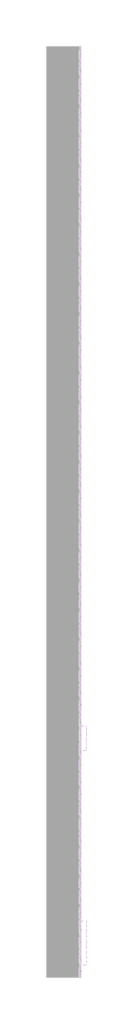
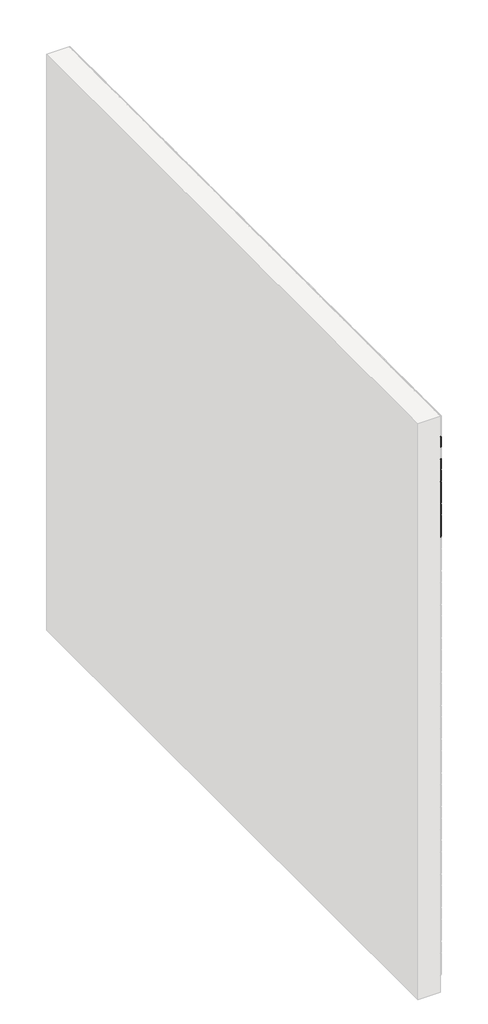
# One storey, part 103 of 121: 144 proxies.
"""IFC4 building model written with IfcOpenShell, lengths in millimetres."""

from ifc_helpers import new_model, si_unit, origin, place, context, project, spatial, transform, mapped, element, save
from components import generic_models_b2b2c5c1, generic_models_9bf73f6f, generic_models_5d175859, generic_models_45888c4d

model = new_model("IFC4")

# Units and contexts
model_context = context("Model", 3, world=origin())
ifc_project = project(units=[si_unit("LENGTHUNIT", "METRE", prefix="MILLI")], contexts=[model_context])

# Site, building, storey
site = spatial("IfcSite", under=ifc_project)
building = spatial("IfcBuilding", under=site)
storey = spatial("IfcBuildingStorey", under=building, Name="PORTOBELLO - SHOWROOM", Elevation=0.0)

# Proxies
placement = place(None, origin())
generic_models_shape = generic_models_b2b2c5c1(model_context)
element("IfcBuildingElementProxy", 1, Name="PBSHOP - CUBICA WHITE 4,8X8,3 : CUBICA WHITE - POSIÇÃO 01", ObjectType="PBSHOP - CUBICA WHITE 4,8X8,3 : CUBICA WHITE - POSIÇÃO 01", at=placement, inside=storey, context=model_context, shape_type="MappedRepresentation", body=[
    mapped(generic_models_shape, transform((150369.5341846, 19332.8066494, 2170.6574029), x_axis=(0.0, 1.0, 0.0), y_axis=(0.0, 0.0, 1.0), z_axis=(1.0, 0.0, 0.0))),
])
element("IfcBuildingElementProxy", 2, Name="PBSHOP - CUBICA WHITE 4,8X8,3 : CUBICA WHITE - POSIÇÃO 01", ObjectType="PBSHOP - CUBICA WHITE 4,8X8,3 : CUBICA WHITE - POSIÇÃO 01", at=placement, inside=storey, context=model_context, shape_type="MappedRepresentation", body=[
    mapped(generic_models_shape, transform((150369.5341846, 19423.6459187, 2170.6574029), x_axis=(0.0, 1.0, 0.0), y_axis=(0.0, 0.0, 1.0), z_axis=(1.0, 0.0, 0.0))),
])
element("IfcBuildingElementProxy", 3, Name="PBSHOP - CUBICA WHITE 4,8X8,3 : CUBICA WHITE - POSIÇÃO 01", ObjectType="PBSHOP - CUBICA WHITE 4,8X8,3 : CUBICA WHITE - POSIÇÃO 01", at=placement, inside=storey, context=model_context, shape_type="MappedRepresentation", body=[
    mapped(generic_models_shape, transform((150369.5341846, 19514.4851879, 2170.6574029), x_axis=(0.0, 1.0, 0.0), y_axis=(0.0, 0.0, 1.0), z_axis=(1.0, 0.0, 0.0))),
])
element("IfcBuildingElementProxy", 4, Name="PBSHOP - CUBICA WHITE 4,8X8,3 : CUBICA WHITE - POSIÇÃO 01", ObjectType="PBSHOP - CUBICA WHITE 4,8X8,3 : CUBICA WHITE - POSIÇÃO 01", at=placement, inside=storey, context=model_context, shape_type="MappedRepresentation", body=[
    mapped(generic_models_shape, transform((150369.5341846, 19605.3244572, 2170.6574029), x_axis=(0.0, 1.0, 0.0), y_axis=(0.0, 0.0, 1.0), z_axis=(1.0, 0.0, 0.0))),
])
element("IfcBuildingElementProxy", 5, Name="PBSHOP - CUBICA WHITE 4,8X8,3 : CUBICA WHITE - POSIÇÃO 01", ObjectType="PBSHOP - CUBICA WHITE 4,8X8,3 : CUBICA WHITE - POSIÇÃO 01", at=placement, inside=storey, context=model_context, shape_type="MappedRepresentation", body=[
    mapped(generic_models_shape, transform((150369.5341846, 19696.1637264, 2170.6574029), x_axis=(0.0, 1.0, 0.0), y_axis=(0.0, 0.0, 1.0), z_axis=(1.0, 0.0, 0.0))),
])
element("IfcBuildingElementProxy", 6, Name="PBSHOP - CUBICA WHITE 4,8X8,3 : CUBICA WHITE - POSIÇÃO 01", ObjectType="PBSHOP - CUBICA WHITE 4,8X8,3 : CUBICA WHITE - POSIÇÃO 01", at=placement, inside=storey, context=model_context, shape_type="MappedRepresentation", body=[
    mapped(generic_models_shape, transform((150369.5341846, 19787.0029957, 2170.6574029), x_axis=(0.0, 1.0, 0.0), y_axis=(0.0, 0.0, 1.0), z_axis=(1.0, 0.0, 0.0))),
])
element("IfcBuildingElementProxy", 7, Name="PBSHOP - CUBICA WHITE 4,8X8,3 : CUBICA WHITE - POSIÇÃO 01", ObjectType="PBSHOP - CUBICA WHITE 4,8X8,3 : CUBICA WHITE - POSIÇÃO 01", at=placement, inside=storey, context=model_context, shape_type="MappedRepresentation", body=[
    mapped(generic_models_shape, transform((150369.5341846, 19877.8422649, 2170.6574029), x_axis=(0.0, 1.0, 0.0), y_axis=(0.0, 0.0, 1.0), z_axis=(1.0, 0.0, 0.0))),
])
element("IfcBuildingElementProxy", 8, Name="PBSHOP - CUBICA WHITE 4,8X8,3 : CUBICA WHITE - POSIÇÃO 01", ObjectType="PBSHOP - CUBICA WHITE 4,8X8,3 : CUBICA WHITE - POSIÇÃO 01", at=placement, inside=storey, context=model_context, shape_type="MappedRepresentation", body=[
    mapped(generic_models_shape, transform((150369.5341846, 19968.6815341, 2170.6574029), x_axis=(0.0, 1.0, 0.0), y_axis=(0.0, 0.0, 1.0), z_axis=(1.0, 0.0, 0.0))),
])
element("IfcBuildingElementProxy", 9, Name="PBSHOP - CUBICA WHITE 4,8X8,3 : CUBICA WHITE - POSIÇÃO 01", ObjectType="PBSHOP - CUBICA WHITE 4,8X8,3 : CUBICA WHITE - POSIÇÃO 01", at=placement, inside=storey, context=model_context, shape_type="MappedRepresentation", body=[
    mapped(generic_models_shape, transform((150369.5341846, 19196.5477456, 2249.5920413), x_axis=(0.0, 1.0, 0.0), y_axis=(0.0, 0.0, 1.0), z_axis=(1.0, 0.0, 0.0))),
])
element("IfcBuildingElementProxy", 10, Name="PBSHOP - CUBICA WHITE 4,8X8,3 : CUBICA WHITE - POSIÇÃO 01", ObjectType="PBSHOP - CUBICA WHITE 4,8X8,3 : CUBICA WHITE - POSIÇÃO 01", at=placement, inside=storey, context=model_context, shape_type="MappedRepresentation", body=[
    mapped(generic_models_shape, transform((150369.5341846, 19287.3870148, 2249.5920413), x_axis=(0.0, 1.0, 0.0), y_axis=(0.0, 0.0, 1.0), z_axis=(1.0, 0.0, 0.0))),
])
element("IfcBuildingElementProxy", 11, Name="PBSHOP - CUBICA WHITE 4,8X8,3 : CUBICA WHITE - POSIÇÃO 01", ObjectType="PBSHOP - CUBICA WHITE 4,8X8,3 : CUBICA WHITE - POSIÇÃO 01", at=placement, inside=storey, context=model_context, shape_type="MappedRepresentation", body=[
    mapped(generic_models_shape, transform((150369.5341846, 19378.2262841, 2249.5920413), x_axis=(0.0, 1.0, 0.0), y_axis=(0.0, 0.0, 1.0), z_axis=(1.0, 0.0, 0.0))),
])
element("IfcBuildingElementProxy", 12, Name="PBSHOP - CUBICA WHITE 4,8X8,3 : CUBICA WHITE - POSIÇÃO 01", ObjectType="PBSHOP - CUBICA WHITE 4,8X8,3 : CUBICA WHITE - POSIÇÃO 01", at=placement, inside=storey, context=model_context, shape_type="MappedRepresentation", body=[
    mapped(generic_models_shape, transform((150369.5341846, 19469.0655533, 2249.5920413), x_axis=(0.0, 1.0, 0.0), y_axis=(0.0, 0.0, 1.0), z_axis=(1.0, 0.0, 0.0))),
])
element("IfcBuildingElementProxy", 13, Name="PBSHOP - CUBICA WHITE 4,8X8,3 : CUBICA WHITE - POSIÇÃO 01", ObjectType="PBSHOP - CUBICA WHITE 4,8X8,3 : CUBICA WHITE - POSIÇÃO 01", at=placement, inside=storey, context=model_context, shape_type="MappedRepresentation", body=[
    mapped(generic_models_shape, transform((150369.5341846, 19559.9048225, 2249.5920413), x_axis=(0.0, 1.0, 0.0), y_axis=(0.0, 0.0, 1.0), z_axis=(1.0, 0.0, 0.0))),
])
element("IfcBuildingElementProxy", 14, Name="PBSHOP - CUBICA WHITE 4,8X8,3 : CUBICA WHITE - POSIÇÃO 01", ObjectType="PBSHOP - CUBICA WHITE 4,8X8,3 : CUBICA WHITE - POSIÇÃO 01", at=placement, inside=storey, context=model_context, shape_type="MappedRepresentation", body=[
    mapped(generic_models_shape, transform((150369.5341846, 19650.7440918, 2249.5920413), x_axis=(0.0, 1.0, 0.0), y_axis=(0.0, 0.0, 1.0), z_axis=(1.0, 0.0, 0.0))),
])
element("IfcBuildingElementProxy", 15, Name="PBSHOP - CUBICA WHITE 4,8X8,3 : CUBICA WHITE - POSIÇÃO 01", ObjectType="PBSHOP - CUBICA WHITE 4,8X8,3 : CUBICA WHITE - POSIÇÃO 01", at=placement, inside=storey, context=model_context, shape_type="MappedRepresentation", body=[
    mapped(generic_models_shape, transform((150369.5341846, 19741.583361, 2249.5920413), x_axis=(0.0, 1.0, 0.0), y_axis=(0.0, 0.0, 1.0), z_axis=(1.0, 0.0, 0.0))),
])
element("IfcBuildingElementProxy", 16, Name="PBSHOP - CUBICA WHITE 4,8X8,3 : CUBICA WHITE - POSIÇÃO 01", ObjectType="PBSHOP - CUBICA WHITE 4,8X8,3 : CUBICA WHITE - POSIÇÃO 01", at=placement, inside=storey, context=model_context, shape_type="MappedRepresentation", body=[
    mapped(generic_models_shape, transform((150369.5341846, 19832.4226303, 2249.5920413), x_axis=(0.0, 1.0, 0.0), y_axis=(0.0, 0.0, 1.0), z_axis=(1.0, 0.0, 0.0))),
])
element("IfcBuildingElementProxy", 17, Name="PBSHOP - CUBICA WHITE 4,8X8,3 : CUBICA WHITE - POSIÇÃO 01", ObjectType="PBSHOP - CUBICA WHITE 4,8X8,3 : CUBICA WHITE - POSIÇÃO 01", at=placement, inside=storey, context=model_context, shape_type="MappedRepresentation", body=[
    mapped(generic_models_shape, transform((150369.5341846, 19923.2618995, 2249.5920413), x_axis=(0.0, 1.0, 0.0), y_axis=(0.0, 0.0, 1.0), z_axis=(1.0, 0.0, 0.0))),
])
element("IfcBuildingElementProxy", 18, Name="PBSHOP - CUBICA WHITE 4,8X8,3 : CUBICA WHITE - POSIÇÃO 01", ObjectType="PBSHOP - CUBICA WHITE 4,8X8,3 : CUBICA WHITE - POSIÇÃO 01", at=placement, inside=storey, context=model_context, shape_type="MappedRepresentation", body=[
    mapped(generic_models_shape, transform((150369.5341846, 19241.9673802, 2328.5266797), x_axis=(0.0, 1.0, 0.0), y_axis=(0.0, 0.0, 1.0), z_axis=(1.0, 0.0, 0.0))),
])
element("IfcBuildingElementProxy", 19, Name="PBSHOP - CUBICA WHITE 4,8X8,3 : CUBICA WHITE - POSIÇÃO 01", ObjectType="PBSHOP - CUBICA WHITE 4,8X8,3 : CUBICA WHITE - POSIÇÃO 01", at=placement, inside=storey, context=model_context, shape_type="MappedRepresentation", body=[
    mapped(generic_models_shape, transform((150369.5341846, 19332.8066494, 2328.5266797), x_axis=(0.0, 1.0, 0.0), y_axis=(0.0, 0.0, 1.0), z_axis=(1.0, 0.0, 0.0))),
])
element("IfcBuildingElementProxy", 20, Name="PBSHOP - CUBICA WHITE 4,8X8,3 : CUBICA WHITE - POSIÇÃO 01", ObjectType="PBSHOP - CUBICA WHITE 4,8X8,3 : CUBICA WHITE - POSIÇÃO 01", at=placement, inside=storey, context=model_context, shape_type="MappedRepresentation", body=[
    mapped(generic_models_shape, transform((150369.5341846, 19423.6459187, 2328.5266797), x_axis=(0.0, 1.0, 0.0), y_axis=(0.0, 0.0, 1.0), z_axis=(1.0, 0.0, 0.0))),
])
element("IfcBuildingElementProxy", 21, Name="PBSHOP - CUBICA WHITE 4,8X8,3 : CUBICA WHITE - POSIÇÃO 01", ObjectType="PBSHOP - CUBICA WHITE 4,8X8,3 : CUBICA WHITE - POSIÇÃO 01", at=placement, inside=storey, context=model_context, shape_type="MappedRepresentation", body=[
    mapped(generic_models_shape, transform((150369.5341846, 19514.4851879, 2328.5266797), x_axis=(0.0, 1.0, 0.0), y_axis=(0.0, 0.0, 1.0), z_axis=(1.0, 0.0, 0.0))),
])
element("IfcBuildingElementProxy", 22, Name="PBSHOP - CUBICA WHITE 4,8X8,3 : CUBICA WHITE - POSIÇÃO 01", ObjectType="PBSHOP - CUBICA WHITE 4,8X8,3 : CUBICA WHITE - POSIÇÃO 01", at=placement, inside=storey, context=model_context, shape_type="MappedRepresentation", body=[
    mapped(generic_models_shape, transform((150369.5341846, 19605.3244572, 2328.5266797), x_axis=(0.0, 1.0, 0.0), y_axis=(0.0, 0.0, 1.0), z_axis=(1.0, 0.0, 0.0))),
])
element("IfcBuildingElementProxy", 23, Name="PBSHOP - CUBICA WHITE 4,8X8,3 : CUBICA WHITE - POSIÇÃO 01", ObjectType="PBSHOP - CUBICA WHITE 4,8X8,3 : CUBICA WHITE - POSIÇÃO 01", at=placement, inside=storey, context=model_context, shape_type="MappedRepresentation", body=[
    mapped(generic_models_shape, transform((150369.5341846, 19696.1637264, 2328.5266797), x_axis=(0.0, 1.0, 0.0), y_axis=(0.0, 0.0, 1.0), z_axis=(1.0, 0.0, 0.0))),
])
element("IfcBuildingElementProxy", 24, Name="PBSHOP - CUBICA WHITE 4,8X8,3 : CUBICA WHITE - POSIÇÃO 01", ObjectType="PBSHOP - CUBICA WHITE 4,8X8,3 : CUBICA WHITE - POSIÇÃO 01", at=placement, inside=storey, context=model_context, shape_type="MappedRepresentation", body=[
    mapped(generic_models_shape, transform((150369.5341846, 19787.0029957, 2328.5266797), x_axis=(0.0, 1.0, 0.0), y_axis=(0.0, 0.0, 1.0), z_axis=(1.0, 0.0, 0.0))),
])
element("IfcBuildingElementProxy", 25, Name="PBSHOP - CUBICA WHITE 4,8X8,3 : CUBICA WHITE - POSIÇÃO 01", ObjectType="PBSHOP - CUBICA WHITE 4,8X8,3 : CUBICA WHITE - POSIÇÃO 01", at=placement, inside=storey, context=model_context, shape_type="MappedRepresentation", body=[
    mapped(generic_models_shape, transform((150369.5341846, 19877.8422649, 2328.5266797), x_axis=(0.0, 1.0, 0.0), y_axis=(0.0, 0.0, 1.0), z_axis=(1.0, 0.0, 0.0))),
])
element("IfcBuildingElementProxy", 26, Name="PBSHOP - CUBICA WHITE 4,8X8,3 : CUBICA WHITE - POSIÇÃO 01", ObjectType="PBSHOP - CUBICA WHITE 4,8X8,3 : CUBICA WHITE - POSIÇÃO 01", at=placement, inside=storey, context=model_context, shape_type="MappedRepresentation", body=[
    mapped(generic_models_shape, transform((150369.5341846, 19968.6815341, 2328.5266797), x_axis=(0.0, 1.0, 0.0), y_axis=(0.0, 0.0, 1.0), z_axis=(1.0, 0.0, 0.0))),
])
element("IfcBuildingElementProxy", 27, Name="PBSHOP - CUBICA WHITE 4,8X8,3 : CUBICA WHITE - POSIÇÃO 01", ObjectType="PBSHOP - CUBICA WHITE 4,8X8,3 : CUBICA WHITE - POSIÇÃO 01", at=placement, inside=storey, context=model_context, shape_type="MappedRepresentation", body=[
    mapped(generic_models_shape, transform((150369.5341846, 19196.5477456, 2407.461318), x_axis=(0.0, 1.0, 0.0), y_axis=(0.0, 0.0, 1.0), z_axis=(1.0, 0.0, 0.0))),
])
element("IfcBuildingElementProxy", 28, Name="PBSHOP - CUBICA WHITE 4,8X8,3 : CUBICA WHITE - POSIÇÃO 01", ObjectType="PBSHOP - CUBICA WHITE 4,8X8,3 : CUBICA WHITE - POSIÇÃO 01", at=placement, inside=storey, context=model_context, shape_type="MappedRepresentation", body=[
    mapped(generic_models_shape, transform((150369.5341846, 19287.3870148, 2407.461318), x_axis=(0.0, 1.0, 0.0), y_axis=(0.0, 0.0, 1.0), z_axis=(1.0, 0.0, 0.0))),
])
element("IfcBuildingElementProxy", 29, Name="PBSHOP - CUBICA WHITE 4,8X8,3 : CUBICA WHITE - POSIÇÃO 01", ObjectType="PBSHOP - CUBICA WHITE 4,8X8,3 : CUBICA WHITE - POSIÇÃO 01", at=placement, inside=storey, context=model_context, shape_type="MappedRepresentation", body=[
    mapped(generic_models_shape, transform((150369.5341846, 19378.2262841, 2407.461318), x_axis=(0.0, 1.0, 0.0), y_axis=(0.0, 0.0, 1.0), z_axis=(1.0, 0.0, 0.0))),
])
element("IfcBuildingElementProxy", 30, Name="PBSHOP - CUBICA WHITE 4,8X8,3 : CUBICA WHITE - POSIÇÃO 01", ObjectType="PBSHOP - CUBICA WHITE 4,8X8,3 : CUBICA WHITE - POSIÇÃO 01", at=placement, inside=storey, context=model_context, shape_type="MappedRepresentation", body=[
    mapped(generic_models_shape, transform((150369.5341846, 19469.0655533, 2407.461318), x_axis=(0.0, 1.0, 0.0), y_axis=(0.0, 0.0, 1.0), z_axis=(1.0, 0.0, 0.0))),
])
element("IfcBuildingElementProxy", 31, Name="PBSHOP - CUBICA WHITE 4,8X8,3 : CUBICA WHITE - POSIÇÃO 01", ObjectType="PBSHOP - CUBICA WHITE 4,8X8,3 : CUBICA WHITE - POSIÇÃO 01", at=placement, inside=storey, context=model_context, shape_type="MappedRepresentation", body=[
    mapped(generic_models_shape, transform((150369.5341846, 19559.9048225, 2407.461318), x_axis=(0.0, 1.0, 0.0), y_axis=(0.0, 0.0, 1.0), z_axis=(1.0, 0.0, 0.0))),
])
element("IfcBuildingElementProxy", 32, Name="PBSHOP - CUBICA WHITE 4,8X8,3 : CUBICA WHITE - POSIÇÃO 01", ObjectType="PBSHOP - CUBICA WHITE 4,8X8,3 : CUBICA WHITE - POSIÇÃO 01", at=placement, inside=storey, context=model_context, shape_type="MappedRepresentation", body=[
    mapped(generic_models_shape, transform((150369.5341846, 19650.7440918, 2407.461318), x_axis=(0.0, 1.0, 0.0), y_axis=(0.0, 0.0, 1.0), z_axis=(1.0, 0.0, 0.0))),
])
element("IfcBuildingElementProxy", 33, Name="PBSHOP - CUBICA WHITE 4,8X8,3 : CUBICA WHITE - POSIÇÃO 01", ObjectType="PBSHOP - CUBICA WHITE 4,8X8,3 : CUBICA WHITE - POSIÇÃO 01", at=placement, inside=storey, context=model_context, shape_type="MappedRepresentation", body=[
    mapped(generic_models_shape, transform((150369.5341846, 19741.583361, 2407.461318), x_axis=(0.0, 1.0, 0.0), y_axis=(0.0, 0.0, 1.0), z_axis=(1.0, 0.0, 0.0))),
])
element("IfcBuildingElementProxy", 34, Name="PBSHOP - CUBICA WHITE 4,8X8,3 : CUBICA WHITE - POSIÇÃO 01", ObjectType="PBSHOP - CUBICA WHITE 4,8X8,3 : CUBICA WHITE - POSIÇÃO 01", at=placement, inside=storey, context=model_context, shape_type="MappedRepresentation", body=[
    mapped(generic_models_shape, transform((150369.5341846, 19832.4226303, 2407.461318), x_axis=(0.0, 1.0, 0.0), y_axis=(0.0, 0.0, 1.0), z_axis=(1.0, 0.0, 0.0))),
])
element("IfcBuildingElementProxy", 35, Name="PBSHOP - CUBICA WHITE 4,8X8,3 : CUBICA WHITE - POSIÇÃO 01", ObjectType="PBSHOP - CUBICA WHITE 4,8X8,3 : CUBICA WHITE - POSIÇÃO 01", at=placement, inside=storey, context=model_context, shape_type="MappedRepresentation", body=[
    mapped(generic_models_shape, transform((150369.5341846, 19923.2618995, 2407.461318), x_axis=(0.0, 1.0, 0.0), y_axis=(0.0, 0.0, 1.0), z_axis=(1.0, 0.0, 0.0))),
])
element("IfcBuildingElementProxy", 36, Name="PBSHOP - CUBICA WHITE 4,8X8,3 : CUBICA WHITE - POSIÇÃO 01", ObjectType="PBSHOP - CUBICA WHITE 4,8X8,3 : CUBICA WHITE - POSIÇÃO 01", at=placement, inside=storey, context=model_context, shape_type="MappedRepresentation", body=[
    mapped(generic_models_shape, transform((150369.5341846, 19241.9673802, 2486.3959564), x_axis=(0.0, 1.0, 0.0), y_axis=(0.0, 0.0, 1.0), z_axis=(1.0, 0.0, 0.0))),
])
element("IfcBuildingElementProxy", 37, Name="PBSHOP - CUBICA WHITE 4,8X8,3 : CUBICA WHITE - POSIÇÃO 01", ObjectType="PBSHOP - CUBICA WHITE 4,8X8,3 : CUBICA WHITE - POSIÇÃO 01", at=placement, inside=storey, context=model_context, shape_type="MappedRepresentation", body=[
    mapped(generic_models_shape, transform((150369.5341846, 19332.8066494, 2486.3959564), x_axis=(0.0, 1.0, 0.0), y_axis=(0.0, 0.0, 1.0), z_axis=(1.0, 0.0, 0.0))),
])
element("IfcBuildingElementProxy", 38, Name="PBSHOP - CUBICA WHITE 4,8X8,3 : CUBICA WHITE - POSIÇÃO 01", ObjectType="PBSHOP - CUBICA WHITE 4,8X8,3 : CUBICA WHITE - POSIÇÃO 01", at=placement, inside=storey, context=model_context, shape_type="MappedRepresentation", body=[
    mapped(generic_models_shape, transform((150369.5341846, 19423.6459187, 2486.3959564), x_axis=(0.0, 1.0, 0.0), y_axis=(0.0, 0.0, 1.0), z_axis=(1.0, 0.0, 0.0))),
])
element("IfcBuildingElementProxy", 39, Name="PBSHOP - CUBICA WHITE 4,8X8,3 : CUBICA WHITE - POSIÇÃO 01", ObjectType="PBSHOP - CUBICA WHITE 4,8X8,3 : CUBICA WHITE - POSIÇÃO 01", at=placement, inside=storey, context=model_context, shape_type="MappedRepresentation", body=[
    mapped(generic_models_shape, transform((150369.5341846, 19514.4851879, 2486.3959564), x_axis=(0.0, 1.0, 0.0), y_axis=(0.0, 0.0, 1.0), z_axis=(1.0, 0.0, 0.0))),
])
element("IfcBuildingElementProxy", 40, Name="PBSHOP - CUBICA WHITE 4,8X8,3 : CUBICA WHITE - POSIÇÃO 01", ObjectType="PBSHOP - CUBICA WHITE 4,8X8,3 : CUBICA WHITE - POSIÇÃO 01", at=placement, inside=storey, context=model_context, shape_type="MappedRepresentation", body=[
    mapped(generic_models_shape, transform((150369.5341846, 19605.3244572, 2486.3959564), x_axis=(0.0, 1.0, 0.0), y_axis=(0.0, 0.0, 1.0), z_axis=(1.0, 0.0, 0.0))),
])
element("IfcBuildingElementProxy", 41, Name="PBSHOP - CUBICA WHITE 4,8X8,3 : CUBICA WHITE - POSIÇÃO 01", ObjectType="PBSHOP - CUBICA WHITE 4,8X8,3 : CUBICA WHITE - POSIÇÃO 01", at=placement, inside=storey, context=model_context, shape_type="MappedRepresentation", body=[
    mapped(generic_models_shape, transform((150369.5341846, 19696.1637264, 2486.3959564), x_axis=(0.0, 1.0, 0.0), y_axis=(0.0, 0.0, 1.0), z_axis=(1.0, 0.0, 0.0))),
])
element("IfcBuildingElementProxy", 42, Name="PBSHOP - CUBICA WHITE 4,8X8,3 : CUBICA WHITE - POSIÇÃO 01", ObjectType="PBSHOP - CUBICA WHITE 4,8X8,3 : CUBICA WHITE - POSIÇÃO 01", at=placement, inside=storey, context=model_context, shape_type="MappedRepresentation", body=[
    mapped(generic_models_shape, transform((150369.5341846, 19787.0029957, 2486.3959564), x_axis=(0.0, 1.0, 0.0), y_axis=(0.0, 0.0, 1.0), z_axis=(1.0, 0.0, 0.0))),
])
element("IfcBuildingElementProxy", 43, Name="PBSHOP - CUBICA WHITE 4,8X8,3 : CUBICA WHITE - POSIÇÃO 01", ObjectType="PBSHOP - CUBICA WHITE 4,8X8,3 : CUBICA WHITE - POSIÇÃO 01", at=placement, inside=storey, context=model_context, shape_type="MappedRepresentation", body=[
    mapped(generic_models_shape, transform((150369.5341846, 19877.8422649, 2486.3959564), x_axis=(0.0, 1.0, 0.0), y_axis=(0.0, 0.0, 1.0), z_axis=(1.0, 0.0, 0.0))),
])
element("IfcBuildingElementProxy", 44, Name="PBSHOP - CUBICA WHITE 4,8X8,3 : CUBICA WHITE - POSIÇÃO 01", ObjectType="PBSHOP - CUBICA WHITE 4,8X8,3 : CUBICA WHITE - POSIÇÃO 01", at=placement, inside=storey, context=model_context, shape_type="MappedRepresentation", body=[
    mapped(generic_models_shape, transform((150369.5341846, 19968.6815341, 2486.3959564), x_axis=(0.0, 1.0, 0.0), y_axis=(0.0, 0.0, 1.0), z_axis=(1.0, 0.0, 0.0))),
])
element("IfcBuildingElementProxy", 45, Name="PBSHOP - CUBICA WHITE 4,8X8,3 : CUBICA WHITE - POSIÇÃO 01", ObjectType="PBSHOP - CUBICA WHITE 4,8X8,3 : CUBICA WHITE - POSIÇÃO 01", at=placement, inside=storey, context=model_context, shape_type="MappedRepresentation", body=[
    mapped(generic_models_shape, transform((150369.5341846, 19196.5477456, 2565.3305948), x_axis=(0.0, 1.0, 0.0), y_axis=(0.0, 0.0, 1.0), z_axis=(1.0, 0.0, 0.0))),
])
element("IfcBuildingElementProxy", 46, Name="PBSHOP - CUBICA WHITE 4,8X8,3 : CUBICA WHITE - POSIÇÃO 01", ObjectType="PBSHOP - CUBICA WHITE 4,8X8,3 : CUBICA WHITE - POSIÇÃO 01", at=placement, inside=storey, context=model_context, shape_type="MappedRepresentation", body=[
    mapped(generic_models_shape, transform((150369.5341846, 19287.3870148, 2565.3305948), x_axis=(0.0, 1.0, 0.0), y_axis=(0.0, 0.0, 1.0), z_axis=(1.0, 0.0, 0.0))),
])
element("IfcBuildingElementProxy", 47, Name="PBSHOP - CUBICA WHITE 4,8X8,3 : CUBICA WHITE - POSIÇÃO 01", ObjectType="PBSHOP - CUBICA WHITE 4,8X8,3 : CUBICA WHITE - POSIÇÃO 01", at=placement, inside=storey, context=model_context, shape_type="MappedRepresentation", body=[
    mapped(generic_models_shape, transform((150369.5341846, 19378.2262841, 2565.3305948), x_axis=(0.0, 1.0, 0.0), y_axis=(0.0, 0.0, 1.0), z_axis=(1.0, 0.0, 0.0))),
])
element("IfcBuildingElementProxy", 48, Name="PBSHOP - CUBICA WHITE 4,8X8,3 : CUBICA WHITE - POSIÇÃO 01", ObjectType="PBSHOP - CUBICA WHITE 4,8X8,3 : CUBICA WHITE - POSIÇÃO 01", at=placement, inside=storey, context=model_context, shape_type="MappedRepresentation", body=[
    mapped(generic_models_shape, transform((150369.5341846, 19469.0655533, 2565.3305948), x_axis=(0.0, 1.0, 0.0), y_axis=(0.0, 0.0, 1.0), z_axis=(1.0, 0.0, 0.0))),
])
element("IfcBuildingElementProxy", 49, Name="PBSHOP - CUBICA WHITE 4,8X8,3 : CUBICA WHITE - POSIÇÃO 01", ObjectType="PBSHOP - CUBICA WHITE 4,8X8,3 : CUBICA WHITE - POSIÇÃO 01", at=placement, inside=storey, context=model_context, shape_type="MappedRepresentation", body=[
    mapped(generic_models_shape, transform((150369.5341846, 19559.9048225, 2565.3305948), x_axis=(0.0, 1.0, 0.0), y_axis=(0.0, 0.0, 1.0), z_axis=(1.0, 0.0, 0.0))),
])
generic_models_2_shape = generic_models_9bf73f6f(model_context)
element("IfcBuildingElementProxy", 50, Name="PBSHOP - CUBICA WHITE 4,8X8,3 : CUBICA WHITE - POSIÇÃO 03", ObjectType="PBSHOP - CUBICA WHITE 4,8X8,3 : CUBICA WHITE - POSIÇÃO 03", at=placement, inside=storey, context=model_context, shape_type="MappedRepresentation", body=[
    mapped(generic_models_2_shape, transform((150369.5341846, 19219.259722, 2131.1488733), x_axis=(0.0, 1.0, 0.0), y_axis=(0.0, 0.0, 1.0), z_axis=(1.0, 0.0, 0.0))),
])
element("IfcBuildingElementProxy", 51, Name="PBSHOP - CUBICA WHITE 4,8X8,3 : CUBICA WHITE - POSIÇÃO 03", ObjectType="PBSHOP - CUBICA WHITE 4,8X8,3 : CUBICA WHITE - POSIÇÃO 03", at=placement, inside=storey, context=model_context, shape_type="MappedRepresentation", body=[
    mapped(generic_models_2_shape, transform((150369.5341846, 19310.0989913, 2131.1488733), x_axis=(0.0, 1.0, 0.0), y_axis=(0.0, 0.0, 1.0), z_axis=(1.0, 0.0, 0.0))),
])
element("IfcBuildingElementProxy", 52, Name="PBSHOP - CUBICA WHITE 4,8X8,3 : CUBICA WHITE - POSIÇÃO 03", ObjectType="PBSHOP - CUBICA WHITE 4,8X8,3 : CUBICA WHITE - POSIÇÃO 03", at=placement, inside=storey, context=model_context, shape_type="MappedRepresentation", body=[
    mapped(generic_models_2_shape, transform((150369.5341846, 19400.9382605, 2131.1488733), x_axis=(0.0, 1.0, 0.0), y_axis=(0.0, 0.0, 1.0), z_axis=(1.0, 0.0, 0.0))),
])
element("IfcBuildingElementProxy", 53, Name="PBSHOP - CUBICA WHITE 4,8X8,3 : CUBICA WHITE - POSIÇÃO 03", ObjectType="PBSHOP - CUBICA WHITE 4,8X8,3 : CUBICA WHITE - POSIÇÃO 03", at=placement, inside=storey, context=model_context, shape_type="MappedRepresentation", body=[
    mapped(generic_models_2_shape, transform((150369.5341846, 19491.7775298, 2131.1488733), x_axis=(0.0, 1.0, 0.0), y_axis=(0.0, 0.0, 1.0), z_axis=(1.0, 0.0, 0.0))),
])
element("IfcBuildingElementProxy", 54, Name="PBSHOP - CUBICA WHITE 4,8X8,3 : CUBICA WHITE - POSIÇÃO 03", ObjectType="PBSHOP - CUBICA WHITE 4,8X8,3 : CUBICA WHITE - POSIÇÃO 03", at=placement, inside=storey, context=model_context, shape_type="MappedRepresentation", body=[
    mapped(generic_models_2_shape, transform((150369.5341846, 19582.616799, 2131.1488733), x_axis=(0.0, 1.0, 0.0), y_axis=(0.0, 0.0, 1.0), z_axis=(1.0, 0.0, 0.0))),
])
element("IfcBuildingElementProxy", 55, Name="PBSHOP - CUBICA WHITE 4,8X8,3 : CUBICA WHITE - POSIÇÃO 03", ObjectType="PBSHOP - CUBICA WHITE 4,8X8,3 : CUBICA WHITE - POSIÇÃO 03", at=placement, inside=storey, context=model_context, shape_type="MappedRepresentation", body=[
    mapped(generic_models_2_shape, transform((150369.5341846, 19673.4560683, 2131.1488733), x_axis=(0.0, 1.0, 0.0), y_axis=(0.0, 0.0, 1.0), z_axis=(1.0, 0.0, 0.0))),
])
element("IfcBuildingElementProxy", 56, Name="PBSHOP - CUBICA WHITE 4,8X8,3 : CUBICA WHITE - POSIÇÃO 03", ObjectType="PBSHOP - CUBICA WHITE 4,8X8,3 : CUBICA WHITE - POSIÇÃO 03", at=placement, inside=storey, context=model_context, shape_type="MappedRepresentation", body=[
    mapped(generic_models_2_shape, transform((150369.5341846, 19764.2953375, 2131.1488733), x_axis=(0.0, 1.0, 0.0), y_axis=(0.0, 0.0, 1.0), z_axis=(1.0, 0.0, 0.0))),
])
element("IfcBuildingElementProxy", 57, Name="PBSHOP - CUBICA WHITE 4,8X8,3 : CUBICA WHITE - POSIÇÃO 03", ObjectType="PBSHOP - CUBICA WHITE 4,8X8,3 : CUBICA WHITE - POSIÇÃO 03", at=placement, inside=storey, context=model_context, shape_type="MappedRepresentation", body=[
    mapped(generic_models_2_shape, transform((150369.5341846, 19855.1346068, 2131.1488733), x_axis=(0.0, 1.0, 0.0), y_axis=(0.0, 0.0, 1.0), z_axis=(1.0, 0.0, 0.0))),
])
element("IfcBuildingElementProxy", 58, Name="PBSHOP - CUBICA WHITE 4,8X8,3 : CUBICA WHITE - POSIÇÃO 03", ObjectType="PBSHOP - CUBICA WHITE 4,8X8,3 : CUBICA WHITE - POSIÇÃO 03", at=placement, inside=storey, context=model_context, shape_type="MappedRepresentation", body=[
    mapped(generic_models_2_shape, transform((150369.5341846, 19945.973876, 2131.1488733), x_axis=(0.0, 1.0, 0.0), y_axis=(0.0, 0.0, 1.0), z_axis=(1.0, 0.0, 0.0))),
])
element("IfcBuildingElementProxy", 59, Name="PBSHOP - CUBICA WHITE 4,8X8,3 : CUBICA WHITE - POSIÇÃO 03", ObjectType="PBSHOP - CUBICA WHITE 4,8X8,3 : CUBICA WHITE - POSIÇÃO 03", at=placement, inside=storey, context=model_context, shape_type="MappedRepresentation", body=[
    mapped(generic_models_2_shape, transform((150369.5341846, 19264.6793567, 2210.0835117), x_axis=(0.0, 1.0, 0.0), y_axis=(0.0, 0.0, 1.0), z_axis=(1.0, 0.0, 0.0))),
])
element("IfcBuildingElementProxy", 60, Name="PBSHOP - CUBICA WHITE 4,8X8,3 : CUBICA WHITE - POSIÇÃO 03", ObjectType="PBSHOP - CUBICA WHITE 4,8X8,3 : CUBICA WHITE - POSIÇÃO 03", at=placement, inside=storey, context=model_context, shape_type="MappedRepresentation", body=[
    mapped(generic_models_2_shape, transform((150369.5341846, 19355.5186259, 2210.0835117), x_axis=(0.0, 1.0, 0.0), y_axis=(0.0, 0.0, 1.0), z_axis=(1.0, 0.0, 0.0))),
])
element("IfcBuildingElementProxy", 61, Name="PBSHOP - CUBICA WHITE 4,8X8,3 : CUBICA WHITE - POSIÇÃO 03", ObjectType="PBSHOP - CUBICA WHITE 4,8X8,3 : CUBICA WHITE - POSIÇÃO 03", at=placement, inside=storey, context=model_context, shape_type="MappedRepresentation", body=[
    mapped(generic_models_2_shape, transform((150369.5341846, 19446.3578952, 2210.0835117), x_axis=(0.0, 1.0, 0.0), y_axis=(0.0, 0.0, 1.0), z_axis=(1.0, 0.0, 0.0))),
])
element("IfcBuildingElementProxy", 62, Name="PBSHOP - CUBICA WHITE 4,8X8,3 : CUBICA WHITE - POSIÇÃO 03", ObjectType="PBSHOP - CUBICA WHITE 4,8X8,3 : CUBICA WHITE - POSIÇÃO 03", at=placement, inside=storey, context=model_context, shape_type="MappedRepresentation", body=[
    mapped(generic_models_2_shape, transform((150369.5341846, 19537.1971644, 2210.0835117), x_axis=(0.0, 1.0, 0.0), y_axis=(0.0, 0.0, 1.0), z_axis=(1.0, 0.0, 0.0))),
])
element("IfcBuildingElementProxy", 63, Name="PBSHOP - CUBICA WHITE 4,8X8,3 : CUBICA WHITE - POSIÇÃO 03", ObjectType="PBSHOP - CUBICA WHITE 4,8X8,3 : CUBICA WHITE - POSIÇÃO 03", at=placement, inside=storey, context=model_context, shape_type="MappedRepresentation", body=[
    mapped(generic_models_2_shape, transform((150369.5341846, 19628.0364336, 2210.0835117), x_axis=(0.0, 1.0, 0.0), y_axis=(0.0, 0.0, 1.0), z_axis=(1.0, 0.0, 0.0))),
])
element("IfcBuildingElementProxy", 64, Name="PBSHOP - CUBICA WHITE 4,8X8,3 : CUBICA WHITE - POSIÇÃO 03", ObjectType="PBSHOP - CUBICA WHITE 4,8X8,3 : CUBICA WHITE - POSIÇÃO 03", at=placement, inside=storey, context=model_context, shape_type="MappedRepresentation", body=[
    mapped(generic_models_2_shape, transform((150369.5341846, 19718.8757029, 2210.0835117), x_axis=(0.0, 1.0, 0.0), y_axis=(0.0, 0.0, 1.0), z_axis=(1.0, 0.0, 0.0))),
])
element("IfcBuildingElementProxy", 65, Name="PBSHOP - CUBICA WHITE 4,8X8,3 : CUBICA WHITE - POSIÇÃO 03", ObjectType="PBSHOP - CUBICA WHITE 4,8X8,3 : CUBICA WHITE - POSIÇÃO 03", at=placement, inside=storey, context=model_context, shape_type="MappedRepresentation", body=[
    mapped(generic_models_2_shape, transform((150369.5341846, 19809.7149721, 2210.0835117), x_axis=(0.0, 1.0, 0.0), y_axis=(0.0, 0.0, 1.0), z_axis=(1.0, 0.0, 0.0))),
])
element("IfcBuildingElementProxy", 66, Name="PBSHOP - CUBICA WHITE 4,8X8,3 : CUBICA WHITE - POSIÇÃO 03", ObjectType="PBSHOP - CUBICA WHITE 4,8X8,3 : CUBICA WHITE - POSIÇÃO 03", at=placement, inside=storey, context=model_context, shape_type="MappedRepresentation", body=[
    mapped(generic_models_2_shape, transform((150369.5341846, 19900.5542414, 2210.0835117), x_axis=(0.0, 1.0, 0.0), y_axis=(0.0, 0.0, 1.0), z_axis=(1.0, 0.0, 0.0))),
])
element("IfcBuildingElementProxy", 67, Name="PBSHOP - CUBICA WHITE 4,8X8,3 : CUBICA WHITE - POSIÇÃO 03", ObjectType="PBSHOP - CUBICA WHITE 4,8X8,3 : CUBICA WHITE - POSIÇÃO 03", at=placement, inside=storey, context=model_context, shape_type="MappedRepresentation", body=[
    mapped(generic_models_2_shape, transform((150369.5341846, 19991.3935106, 2210.0835117), x_axis=(0.0, 1.0, 0.0), y_axis=(0.0, 0.0, 1.0), z_axis=(1.0, 0.0, 0.0))),
])
element("IfcBuildingElementProxy", 68, Name="PBSHOP - CUBICA WHITE 4,8X8,3 : CUBICA WHITE - POSIÇÃO 03", ObjectType="PBSHOP - CUBICA WHITE 4,8X8,3 : CUBICA WHITE - POSIÇÃO 03", at=placement, inside=storey, context=model_context, shape_type="MappedRepresentation", body=[
    mapped(generic_models_2_shape, transform((150369.5341846, 19219.259722, 2289.0181501), x_axis=(0.0, 1.0, 0.0), y_axis=(0.0, 0.0, 1.0), z_axis=(1.0, 0.0, 0.0))),
])
element("IfcBuildingElementProxy", 69, Name="PBSHOP - CUBICA WHITE 4,8X8,3 : CUBICA WHITE - POSIÇÃO 03", ObjectType="PBSHOP - CUBICA WHITE 4,8X8,3 : CUBICA WHITE - POSIÇÃO 03", at=placement, inside=storey, context=model_context, shape_type="MappedRepresentation", body=[
    mapped(generic_models_2_shape, transform((150369.5341846, 19310.0989913, 2289.0181501), x_axis=(0.0, 1.0, 0.0), y_axis=(0.0, 0.0, 1.0), z_axis=(1.0, 0.0, 0.0))),
])
element("IfcBuildingElementProxy", 70, Name="PBSHOP - CUBICA WHITE 4,8X8,3 : CUBICA WHITE - POSIÇÃO 03", ObjectType="PBSHOP - CUBICA WHITE 4,8X8,3 : CUBICA WHITE - POSIÇÃO 03", at=placement, inside=storey, context=model_context, shape_type="MappedRepresentation", body=[
    mapped(generic_models_2_shape, transform((150369.5341846, 19400.9382605, 2289.0181501), x_axis=(0.0, 1.0, 0.0), y_axis=(0.0, 0.0, 1.0), z_axis=(1.0, 0.0, 0.0))),
])
element("IfcBuildingElementProxy", 71, Name="PBSHOP - CUBICA WHITE 4,8X8,3 : CUBICA WHITE - POSIÇÃO 03", ObjectType="PBSHOP - CUBICA WHITE 4,8X8,3 : CUBICA WHITE - POSIÇÃO 03", at=placement, inside=storey, context=model_context, shape_type="MappedRepresentation", body=[
    mapped(generic_models_2_shape, transform((150369.5341846, 19491.7775298, 2289.0181501), x_axis=(0.0, 1.0, 0.0), y_axis=(0.0, 0.0, 1.0), z_axis=(1.0, 0.0, 0.0))),
])
element("IfcBuildingElementProxy", 72, Name="PBSHOP - CUBICA WHITE 4,8X8,3 : CUBICA WHITE - POSIÇÃO 03", ObjectType="PBSHOP - CUBICA WHITE 4,8X8,3 : CUBICA WHITE - POSIÇÃO 03", at=placement, inside=storey, context=model_context, shape_type="MappedRepresentation", body=[
    mapped(generic_models_2_shape, transform((150369.5341846, 19582.616799, 2289.0181501), x_axis=(0.0, 1.0, 0.0), y_axis=(0.0, 0.0, 1.0), z_axis=(1.0, 0.0, 0.0))),
])
element("IfcBuildingElementProxy", 73, Name="PBSHOP - CUBICA WHITE 4,8X8,3 : CUBICA WHITE - POSIÇÃO 03", ObjectType="PBSHOP - CUBICA WHITE 4,8X8,3 : CUBICA WHITE - POSIÇÃO 03", at=placement, inside=storey, context=model_context, shape_type="MappedRepresentation", body=[
    mapped(generic_models_2_shape, transform((150369.5341846, 19673.4560683, 2289.0181501), x_axis=(0.0, 1.0, 0.0), y_axis=(0.0, 0.0, 1.0), z_axis=(1.0, 0.0, 0.0))),
])
element("IfcBuildingElementProxy", 74, Name="PBSHOP - CUBICA WHITE 4,8X8,3 : CUBICA WHITE - POSIÇÃO 03", ObjectType="PBSHOP - CUBICA WHITE 4,8X8,3 : CUBICA WHITE - POSIÇÃO 03", at=placement, inside=storey, context=model_context, shape_type="MappedRepresentation", body=[
    mapped(generic_models_2_shape, transform((150369.5341846, 19764.2953375, 2289.0181501), x_axis=(0.0, 1.0, 0.0), y_axis=(0.0, 0.0, 1.0), z_axis=(1.0, 0.0, 0.0))),
])
element("IfcBuildingElementProxy", 75, Name="PBSHOP - CUBICA WHITE 4,8X8,3 : CUBICA WHITE - POSIÇÃO 03", ObjectType="PBSHOP - CUBICA WHITE 4,8X8,3 : CUBICA WHITE - POSIÇÃO 03", at=placement, inside=storey, context=model_context, shape_type="MappedRepresentation", body=[
    mapped(generic_models_2_shape, transform((150369.5341846, 19855.1346068, 2289.0181501), x_axis=(0.0, 1.0, 0.0), y_axis=(0.0, 0.0, 1.0), z_axis=(1.0, 0.0, 0.0))),
])
element("IfcBuildingElementProxy", 76, Name="PBSHOP - CUBICA WHITE 4,8X8,3 : CUBICA WHITE - POSIÇÃO 03", ObjectType="PBSHOP - CUBICA WHITE 4,8X8,3 : CUBICA WHITE - POSIÇÃO 03", at=placement, inside=storey, context=model_context, shape_type="MappedRepresentation", body=[
    mapped(generic_models_2_shape, transform((150369.5341846, 19945.973876, 2289.0181501), x_axis=(0.0, 1.0, 0.0), y_axis=(0.0, 0.0, 1.0), z_axis=(1.0, 0.0, 0.0))),
])
element("IfcBuildingElementProxy", 77, Name="PBSHOP - CUBICA WHITE 4,8X8,3 : CUBICA WHITE - POSIÇÃO 03", ObjectType="PBSHOP - CUBICA WHITE 4,8X8,3 : CUBICA WHITE - POSIÇÃO 03", at=placement, inside=storey, context=model_context, shape_type="MappedRepresentation", body=[
    mapped(generic_models_2_shape, transform((150369.5341846, 19264.6793567, 2367.9527884), x_axis=(0.0, 1.0, 0.0), y_axis=(0.0, 0.0, 1.0), z_axis=(1.0, 0.0, 0.0))),
])
element("IfcBuildingElementProxy", 78, Name="PBSHOP - CUBICA WHITE 4,8X8,3 : CUBICA WHITE - POSIÇÃO 03", ObjectType="PBSHOP - CUBICA WHITE 4,8X8,3 : CUBICA WHITE - POSIÇÃO 03", at=placement, inside=storey, context=model_context, shape_type="MappedRepresentation", body=[
    mapped(generic_models_2_shape, transform((150369.5341846, 19355.5186259, 2367.9527884), x_axis=(0.0, 1.0, 0.0), y_axis=(0.0, 0.0, 1.0), z_axis=(1.0, 0.0, 0.0))),
])
element("IfcBuildingElementProxy", 79, Name="PBSHOP - CUBICA WHITE 4,8X8,3 : CUBICA WHITE - POSIÇÃO 03", ObjectType="PBSHOP - CUBICA WHITE 4,8X8,3 : CUBICA WHITE - POSIÇÃO 03", at=placement, inside=storey, context=model_context, shape_type="MappedRepresentation", body=[
    mapped(generic_models_2_shape, transform((150369.5341846, 19446.3578952, 2367.9527884), x_axis=(0.0, 1.0, 0.0), y_axis=(0.0, 0.0, 1.0), z_axis=(1.0, 0.0, 0.0))),
])
element("IfcBuildingElementProxy", 80, Name="PBSHOP - CUBICA WHITE 4,8X8,3 : CUBICA WHITE - POSIÇÃO 03", ObjectType="PBSHOP - CUBICA WHITE 4,8X8,3 : CUBICA WHITE - POSIÇÃO 03", at=placement, inside=storey, context=model_context, shape_type="MappedRepresentation", body=[
    mapped(generic_models_2_shape, transform((150369.5341846, 19537.1971644, 2367.9527884), x_axis=(0.0, 1.0, 0.0), y_axis=(0.0, 0.0, 1.0), z_axis=(1.0, 0.0, 0.0))),
])
element("IfcBuildingElementProxy", 81, Name="PBSHOP - CUBICA WHITE 4,8X8,3 : CUBICA WHITE - POSIÇÃO 03", ObjectType="PBSHOP - CUBICA WHITE 4,8X8,3 : CUBICA WHITE - POSIÇÃO 03", at=placement, inside=storey, context=model_context, shape_type="MappedRepresentation", body=[
    mapped(generic_models_2_shape, transform((150369.5341846, 19628.0364336, 2367.9527884), x_axis=(0.0, 1.0, 0.0), y_axis=(0.0, 0.0, 1.0), z_axis=(1.0, 0.0, 0.0))),
])
element("IfcBuildingElementProxy", 82, Name="PBSHOP - CUBICA WHITE 4,8X8,3 : CUBICA WHITE - POSIÇÃO 03", ObjectType="PBSHOP - CUBICA WHITE 4,8X8,3 : CUBICA WHITE - POSIÇÃO 03", at=placement, inside=storey, context=model_context, shape_type="MappedRepresentation", body=[
    mapped(generic_models_2_shape, transform((150369.5341846, 19718.8757029, 2367.9527884), x_axis=(0.0, 1.0, 0.0), y_axis=(0.0, 0.0, 1.0), z_axis=(1.0, 0.0, 0.0))),
])
element("IfcBuildingElementProxy", 83, Name="PBSHOP - CUBICA WHITE 4,8X8,3 : CUBICA WHITE - POSIÇÃO 03", ObjectType="PBSHOP - CUBICA WHITE 4,8X8,3 : CUBICA WHITE - POSIÇÃO 03", at=placement, inside=storey, context=model_context, shape_type="MappedRepresentation", body=[
    mapped(generic_models_2_shape, transform((150369.5341846, 19809.7149721, 2367.9527884), x_axis=(0.0, 1.0, 0.0), y_axis=(0.0, 0.0, 1.0), z_axis=(1.0, 0.0, 0.0))),
])
element("IfcBuildingElementProxy", 84, Name="PBSHOP - CUBICA WHITE 4,8X8,3 : CUBICA WHITE - POSIÇÃO 03", ObjectType="PBSHOP - CUBICA WHITE 4,8X8,3 : CUBICA WHITE - POSIÇÃO 03", at=placement, inside=storey, context=model_context, shape_type="MappedRepresentation", body=[
    mapped(generic_models_2_shape, transform((150369.5341846, 19900.5542414, 2367.9527884), x_axis=(0.0, 1.0, 0.0), y_axis=(0.0, 0.0, 1.0), z_axis=(1.0, 0.0, 0.0))),
])
element("IfcBuildingElementProxy", 85, Name="PBSHOP - CUBICA WHITE 4,8X8,3 : CUBICA WHITE - POSIÇÃO 03", ObjectType="PBSHOP - CUBICA WHITE 4,8X8,3 : CUBICA WHITE - POSIÇÃO 03", at=placement, inside=storey, context=model_context, shape_type="MappedRepresentation", body=[
    mapped(generic_models_2_shape, transform((150369.5341846, 19991.3935106, 2367.9527884), x_axis=(0.0, 1.0, 0.0), y_axis=(0.0, 0.0, 1.0), z_axis=(1.0, 0.0, 0.0))),
])
element("IfcBuildingElementProxy", 86, Name="PBSHOP - CUBICA WHITE 4,8X8,3 : CUBICA WHITE - POSIÇÃO 03", ObjectType="PBSHOP - CUBICA WHITE 4,8X8,3 : CUBICA WHITE - POSIÇÃO 03", at=placement, inside=storey, context=model_context, shape_type="MappedRepresentation", body=[
    mapped(generic_models_2_shape, transform((150369.5341846, 19219.259722, 2446.8874268), x_axis=(0.0, 1.0, 0.0), y_axis=(0.0, 0.0, 1.0), z_axis=(1.0, 0.0, 0.0))),
])
element("IfcBuildingElementProxy", 87, Name="PBSHOP - CUBICA WHITE 4,8X8,3 : CUBICA WHITE - POSIÇÃO 03", ObjectType="PBSHOP - CUBICA WHITE 4,8X8,3 : CUBICA WHITE - POSIÇÃO 03", at=placement, inside=storey, context=model_context, shape_type="MappedRepresentation", body=[
    mapped(generic_models_2_shape, transform((150369.5341846, 19310.0989913, 2446.8874268), x_axis=(0.0, 1.0, 0.0), y_axis=(0.0, 0.0, 1.0), z_axis=(1.0, 0.0, 0.0))),
])
element("IfcBuildingElementProxy", 88, Name="PBSHOP - CUBICA WHITE 4,8X8,3 : CUBICA WHITE - POSIÇÃO 03", ObjectType="PBSHOP - CUBICA WHITE 4,8X8,3 : CUBICA WHITE - POSIÇÃO 03", at=placement, inside=storey, context=model_context, shape_type="MappedRepresentation", body=[
    mapped(generic_models_2_shape, transform((150369.5341846, 19400.9382605, 2446.8874268), x_axis=(0.0, 1.0, 0.0), y_axis=(0.0, 0.0, 1.0), z_axis=(1.0, 0.0, 0.0))),
])
element("IfcBuildingElementProxy", 89, Name="PBSHOP - CUBICA WHITE 4,8X8,3 : CUBICA WHITE - POSIÇÃO 03", ObjectType="PBSHOP - CUBICA WHITE 4,8X8,3 : CUBICA WHITE - POSIÇÃO 03", at=placement, inside=storey, context=model_context, shape_type="MappedRepresentation", body=[
    mapped(generic_models_2_shape, transform((150369.5341846, 19491.7775298, 2446.8874268), x_axis=(0.0, 1.0, 0.0), y_axis=(0.0, 0.0, 1.0), z_axis=(1.0, 0.0, 0.0))),
])
element("IfcBuildingElementProxy", 90, Name="PBSHOP - CUBICA WHITE 4,8X8,3 : CUBICA WHITE - POSIÇÃO 03", ObjectType="PBSHOP - CUBICA WHITE 4,8X8,3 : CUBICA WHITE - POSIÇÃO 03", at=placement, inside=storey, context=model_context, shape_type="MappedRepresentation", body=[
    mapped(generic_models_2_shape, transform((150369.5341846, 19582.616799, 2446.8874268), x_axis=(0.0, 1.0, 0.0), y_axis=(0.0, 0.0, 1.0), z_axis=(1.0, 0.0, 0.0))),
])
element("IfcBuildingElementProxy", 91, Name="PBSHOP - CUBICA WHITE 4,8X8,3 : CUBICA WHITE - POSIÇÃO 03", ObjectType="PBSHOP - CUBICA WHITE 4,8X8,3 : CUBICA WHITE - POSIÇÃO 03", at=placement, inside=storey, context=model_context, shape_type="MappedRepresentation", body=[
    mapped(generic_models_2_shape, transform((150369.5341846, 19673.4560683, 2446.8874268), x_axis=(0.0, 1.0, 0.0), y_axis=(0.0, 0.0, 1.0), z_axis=(1.0, 0.0, 0.0))),
])
element("IfcBuildingElementProxy", 92, Name="PBSHOP - CUBICA WHITE 4,8X8,3 : CUBICA WHITE - POSIÇÃO 03", ObjectType="PBSHOP - CUBICA WHITE 4,8X8,3 : CUBICA WHITE - POSIÇÃO 03", at=placement, inside=storey, context=model_context, shape_type="MappedRepresentation", body=[
    mapped(generic_models_2_shape, transform((150369.5341846, 19764.2953375, 2446.8874268), x_axis=(0.0, 1.0, 0.0), y_axis=(0.0, 0.0, 1.0), z_axis=(1.0, 0.0, 0.0))),
])
element("IfcBuildingElementProxy", 93, Name="PBSHOP - CUBICA WHITE 4,8X8,3 : CUBICA WHITE - POSIÇÃO 03", ObjectType="PBSHOP - CUBICA WHITE 4,8X8,3 : CUBICA WHITE - POSIÇÃO 03", at=placement, inside=storey, context=model_context, shape_type="MappedRepresentation", body=[
    mapped(generic_models_2_shape, transform((150369.5341846, 19855.1346068, 2446.8874268), x_axis=(0.0, 1.0, 0.0), y_axis=(0.0, 0.0, 1.0), z_axis=(1.0, 0.0, 0.0))),
])
element("IfcBuildingElementProxy", 94, Name="PBSHOP - CUBICA WHITE 4,8X8,3 : CUBICA WHITE - POSIÇÃO 03", ObjectType="PBSHOP - CUBICA WHITE 4,8X8,3 : CUBICA WHITE - POSIÇÃO 03", at=placement, inside=storey, context=model_context, shape_type="MappedRepresentation", body=[
    mapped(generic_models_2_shape, transform((150369.5341846, 19945.973876, 2446.8874268), x_axis=(0.0, 1.0, 0.0), y_axis=(0.0, 0.0, 1.0), z_axis=(1.0, 0.0, 0.0))),
])
generic_models_3_shape = generic_models_5d175859(model_context)
element("IfcBuildingElementProxy", 95, Name="PBSHOP - CUBICA WHITE 4,8X8,3 : CUBICA WHITE - POSIÇÃO 01", ObjectType="PBSHOP - CUBICA WHITE 4,8X8,3 : CUBICA WHITE - POSIÇÃO 01", at=placement, inside=storey, context=model_context, shape_type="MappedRepresentation", body=[
    mapped(generic_models_3_shape, transform((150369.5341846, 19378.2306024, 2170.6574029), x_axis=(0.0, -1.0, 0.0), y_axis=(0.0, 0.0, -1.0), z_axis=(1.0, 0.0, 0.0))),
])
element("IfcBuildingElementProxy", 96, Name="PBSHOP - CUBICA WHITE 4,8X8,3 : CUBICA WHITE - POSIÇÃO 01", ObjectType="PBSHOP - CUBICA WHITE 4,8X8,3 : CUBICA WHITE - POSIÇÃO 01", at=placement, inside=storey, context=model_context, shape_type="MappedRepresentation", body=[
    mapped(generic_models_3_shape, transform((150369.5341846, 19469.0698716, 2170.6574029), x_axis=(0.0, -1.0, 0.0), y_axis=(0.0, 0.0, -1.0), z_axis=(1.0, 0.0, 0.0))),
])
element("IfcBuildingElementProxy", 97, Name="PBSHOP - CUBICA WHITE 4,8X8,3 : CUBICA WHITE - POSIÇÃO 01", ObjectType="PBSHOP - CUBICA WHITE 4,8X8,3 : CUBICA WHITE - POSIÇÃO 01", at=placement, inside=storey, context=model_context, shape_type="MappedRepresentation", body=[
    mapped(generic_models_3_shape, transform((150369.5341846, 19559.9091409, 2170.6574029), x_axis=(0.0, -1.0, 0.0), y_axis=(0.0, 0.0, -1.0), z_axis=(1.0, 0.0, 0.0))),
])
element("IfcBuildingElementProxy", 98, Name="PBSHOP - CUBICA WHITE 4,8X8,3 : CUBICA WHITE - POSIÇÃO 01", ObjectType="PBSHOP - CUBICA WHITE 4,8X8,3 : CUBICA WHITE - POSIÇÃO 01", at=placement, inside=storey, context=model_context, shape_type="MappedRepresentation", body=[
    mapped(generic_models_3_shape, transform((150369.5341846, 19650.7484101, 2170.6574029), x_axis=(0.0, -1.0, 0.0), y_axis=(0.0, 0.0, -1.0), z_axis=(1.0, 0.0, 0.0))),
])
element("IfcBuildingElementProxy", 99, Name="PBSHOP - CUBICA WHITE 4,8X8,3 : CUBICA WHITE - POSIÇÃO 01", ObjectType="PBSHOP - CUBICA WHITE 4,8X8,3 : CUBICA WHITE - POSIÇÃO 01", at=placement, inside=storey, context=model_context, shape_type="MappedRepresentation", body=[
    mapped(generic_models_3_shape, transform((150369.5341846, 19741.5876794, 2170.6574029), x_axis=(0.0, -1.0, 0.0), y_axis=(0.0, 0.0, -1.0), z_axis=(1.0, 0.0, 0.0))),
])
element("IfcBuildingElementProxy", 100, Name="PBSHOP - CUBICA WHITE 4,8X8,3 : CUBICA WHITE - POSIÇÃO 01", ObjectType="PBSHOP - CUBICA WHITE 4,8X8,3 : CUBICA WHITE - POSIÇÃO 01", at=placement, inside=storey, context=model_context, shape_type="MappedRepresentation", body=[
    mapped(generic_models_3_shape, transform((150369.5341846, 19832.4269486, 2170.6574029), x_axis=(0.0, -1.0, 0.0), y_axis=(0.0, 0.0, -1.0), z_axis=(1.0, 0.0, 0.0))),
])
element("IfcBuildingElementProxy", 101, Name="PBSHOP - CUBICA WHITE 4,8X8,3 : CUBICA WHITE - POSIÇÃO 01", ObjectType="PBSHOP - CUBICA WHITE 4,8X8,3 : CUBICA WHITE - POSIÇÃO 01", at=placement, inside=storey, context=model_context, shape_type="MappedRepresentation", body=[
    mapped(generic_models_3_shape, transform((150369.5341846, 19923.2662179, 2170.6574029), x_axis=(0.0, -1.0, 0.0), y_axis=(0.0, 0.0, -1.0), z_axis=(1.0, 0.0, 0.0))),
])
element("IfcBuildingElementProxy", 102, Name="PBSHOP - CUBICA WHITE 4,8X8,3 : CUBICA WHITE - POSIÇÃO 01", ObjectType="PBSHOP - CUBICA WHITE 4,8X8,3 : CUBICA WHITE - POSIÇÃO 01", at=placement, inside=storey, context=model_context, shape_type="MappedRepresentation", body=[
    mapped(generic_models_3_shape, transform((150369.5341846, 19196.5520639, 2170.6574029), x_axis=(0.0, -1.0, 0.0), y_axis=(0.0, 0.0, -1.0), z_axis=(1.0, 0.0, 0.0))),
])
element("IfcBuildingElementProxy", 103, Name="PBSHOP - CUBICA WHITE 4,8X8,3 : CUBICA WHITE - POSIÇÃO 01", ObjectType="PBSHOP - CUBICA WHITE 4,8X8,3 : CUBICA WHITE - POSIÇÃO 01", at=placement, inside=storey, context=model_context, shape_type="MappedRepresentation", body=[
    mapped(generic_models_3_shape, transform((150369.5341846, 19241.9716985, 2249.5920413), x_axis=(0.0, -1.0, 0.0), y_axis=(0.0, 0.0, -1.0), z_axis=(1.0, 0.0, 0.0))),
])
element("IfcBuildingElementProxy", 104, Name="PBSHOP - CUBICA WHITE 4,8X8,3 : CUBICA WHITE - POSIÇÃO 01", ObjectType="PBSHOP - CUBICA WHITE 4,8X8,3 : CUBICA WHITE - POSIÇÃO 01", at=placement, inside=storey, context=model_context, shape_type="MappedRepresentation", body=[
    mapped(generic_models_3_shape, transform((150369.5341846, 19332.8109678, 2249.5920413), x_axis=(0.0, -1.0, 0.0), y_axis=(0.0, 0.0, -1.0), z_axis=(1.0, 0.0, 0.0))),
])
element("IfcBuildingElementProxy", 105, Name="PBSHOP - CUBICA WHITE 4,8X8,3 : CUBICA WHITE - POSIÇÃO 01", ObjectType="PBSHOP - CUBICA WHITE 4,8X8,3 : CUBICA WHITE - POSIÇÃO 01", at=placement, inside=storey, context=model_context, shape_type="MappedRepresentation", body=[
    mapped(generic_models_3_shape, transform((150369.5341846, 19423.650237, 2249.5920413), x_axis=(0.0, -1.0, 0.0), y_axis=(0.0, 0.0, -1.0), z_axis=(1.0, 0.0, 0.0))),
])
element("IfcBuildingElementProxy", 106, Name="PBSHOP - CUBICA WHITE 4,8X8,3 : CUBICA WHITE - POSIÇÃO 01", ObjectType="PBSHOP - CUBICA WHITE 4,8X8,3 : CUBICA WHITE - POSIÇÃO 01", at=placement, inside=storey, context=model_context, shape_type="MappedRepresentation", body=[
    mapped(generic_models_3_shape, transform((150369.5341846, 19514.4895063, 2249.5920413), x_axis=(0.0, -1.0, 0.0), y_axis=(0.0, 0.0, -1.0), z_axis=(1.0, 0.0, 0.0))),
])
element("IfcBuildingElementProxy", 107, Name="PBSHOP - CUBICA WHITE 4,8X8,3 : CUBICA WHITE - POSIÇÃO 01", ObjectType="PBSHOP - CUBICA WHITE 4,8X8,3 : CUBICA WHITE - POSIÇÃO 01", at=placement, inside=storey, context=model_context, shape_type="MappedRepresentation", body=[
    mapped(generic_models_3_shape, transform((150369.5341846, 19605.3287755, 2249.5920413), x_axis=(0.0, -1.0, 0.0), y_axis=(0.0, 0.0, -1.0), z_axis=(1.0, 0.0, 0.0))),
])
element("IfcBuildingElementProxy", 108, Name="PBSHOP - CUBICA WHITE 4,8X8,3 : CUBICA WHITE - POSIÇÃO 01", ObjectType="PBSHOP - CUBICA WHITE 4,8X8,3 : CUBICA WHITE - POSIÇÃO 01", at=placement, inside=storey, context=model_context, shape_type="MappedRepresentation", body=[
    mapped(generic_models_3_shape, transform((150369.5341846, 19696.1680447, 2249.5920413), x_axis=(0.0, -1.0, 0.0), y_axis=(0.0, 0.0, -1.0), z_axis=(1.0, 0.0, 0.0))),
])
element("IfcBuildingElementProxy", 109, Name="PBSHOP - CUBICA WHITE 4,8X8,3 : CUBICA WHITE - POSIÇÃO 01", ObjectType="PBSHOP - CUBICA WHITE 4,8X8,3 : CUBICA WHITE - POSIÇÃO 01", at=placement, inside=storey, context=model_context, shape_type="MappedRepresentation", body=[
    mapped(generic_models_3_shape, transform((150369.5341846, 19787.007314, 2249.5920413), x_axis=(0.0, -1.0, 0.0), y_axis=(0.0, 0.0, -1.0), z_axis=(1.0, 0.0, 0.0))),
])
element("IfcBuildingElementProxy", 110, Name="PBSHOP - CUBICA WHITE 4,8X8,3 : CUBICA WHITE - POSIÇÃO 01", ObjectType="PBSHOP - CUBICA WHITE 4,8X8,3 : CUBICA WHITE - POSIÇÃO 01", at=placement, inside=storey, context=model_context, shape_type="MappedRepresentation", body=[
    mapped(generic_models_3_shape, transform((150369.5341846, 19877.8465832, 2249.5920413), x_axis=(0.0, -1.0, 0.0), y_axis=(0.0, 0.0, -1.0), z_axis=(1.0, 0.0, 0.0))),
])
element("IfcBuildingElementProxy", 111, Name="PBSHOP - CUBICA WHITE 4,8X8,3 : CUBICA WHITE - POSIÇÃO 01", ObjectType="PBSHOP - CUBICA WHITE 4,8X8,3 : CUBICA WHITE - POSIÇÃO 01", at=placement, inside=storey, context=model_context, shape_type="MappedRepresentation", body=[
    mapped(generic_models_3_shape, transform((150369.5341846, 19968.6858525, 2249.5920413), x_axis=(0.0, -1.0, 0.0), y_axis=(0.0, 0.0, -1.0), z_axis=(1.0, 0.0, 0.0))),
])
element("IfcBuildingElementProxy", 112, Name="PBSHOP - CUBICA WHITE 4,8X8,3 : CUBICA WHITE - POSIÇÃO 01", ObjectType="PBSHOP - CUBICA WHITE 4,8X8,3 : CUBICA WHITE - POSIÇÃO 01", at=placement, inside=storey, context=model_context, shape_type="MappedRepresentation", body=[
    mapped(generic_models_3_shape, transform((150369.5341846, 19287.3913331, 2328.5266797), x_axis=(0.0, -1.0, 0.0), y_axis=(0.0, 0.0, -1.0), z_axis=(1.0, 0.0, 0.0))),
])
element("IfcBuildingElementProxy", 113, Name="PBSHOP - CUBICA WHITE 4,8X8,3 : CUBICA WHITE - POSIÇÃO 01", ObjectType="PBSHOP - CUBICA WHITE 4,8X8,3 : CUBICA WHITE - POSIÇÃO 01", at=placement, inside=storey, context=model_context, shape_type="MappedRepresentation", body=[
    mapped(generic_models_3_shape, transform((150369.5341846, 19378.2306024, 2328.5266797), x_axis=(0.0, -1.0, 0.0), y_axis=(0.0, 0.0, -1.0), z_axis=(1.0, 0.0, 0.0))),
])
element("IfcBuildingElementProxy", 114, Name="PBSHOP - CUBICA WHITE 4,8X8,3 : CUBICA WHITE - POSIÇÃO 01", ObjectType="PBSHOP - CUBICA WHITE 4,8X8,3 : CUBICA WHITE - POSIÇÃO 01", at=placement, inside=storey, context=model_context, shape_type="MappedRepresentation", body=[
    mapped(generic_models_3_shape, transform((150369.5341846, 19469.0698716, 2328.5266797), x_axis=(0.0, -1.0, 0.0), y_axis=(0.0, 0.0, -1.0), z_axis=(1.0, 0.0, 0.0))),
])
element("IfcBuildingElementProxy", 115, Name="PBSHOP - CUBICA WHITE 4,8X8,3 : CUBICA WHITE - POSIÇÃO 01", ObjectType="PBSHOP - CUBICA WHITE 4,8X8,3 : CUBICA WHITE - POSIÇÃO 01", at=placement, inside=storey, context=model_context, shape_type="MappedRepresentation", body=[
    mapped(generic_models_3_shape, transform((150369.5341846, 19559.9091409, 2328.5266797), x_axis=(0.0, -1.0, 0.0), y_axis=(0.0, 0.0, -1.0), z_axis=(1.0, 0.0, 0.0))),
])
element("IfcBuildingElementProxy", 116, Name="PBSHOP - CUBICA WHITE 4,8X8,3 : CUBICA WHITE - POSIÇÃO 01", ObjectType="PBSHOP - CUBICA WHITE 4,8X8,3 : CUBICA WHITE - POSIÇÃO 01", at=placement, inside=storey, context=model_context, shape_type="MappedRepresentation", body=[
    mapped(generic_models_3_shape, transform((150369.5341846, 19650.7484101, 2328.5266797), x_axis=(0.0, -1.0, 0.0), y_axis=(0.0, 0.0, -1.0), z_axis=(1.0, 0.0, 0.0))),
])
element("IfcBuildingElementProxy", 117, Name="PBSHOP - CUBICA WHITE 4,8X8,3 : CUBICA WHITE - POSIÇÃO 01", ObjectType="PBSHOP - CUBICA WHITE 4,8X8,3 : CUBICA WHITE - POSIÇÃO 01", at=placement, inside=storey, context=model_context, shape_type="MappedRepresentation", body=[
    mapped(generic_models_3_shape, transform((150369.5341846, 19741.5876794, 2328.5266797), x_axis=(0.0, -1.0, 0.0), y_axis=(0.0, 0.0, -1.0), z_axis=(1.0, 0.0, 0.0))),
])
element("IfcBuildingElementProxy", 118, Name="PBSHOP - CUBICA WHITE 4,8X8,3 : CUBICA WHITE - POSIÇÃO 01", ObjectType="PBSHOP - CUBICA WHITE 4,8X8,3 : CUBICA WHITE - POSIÇÃO 01", at=placement, inside=storey, context=model_context, shape_type="MappedRepresentation", body=[
    mapped(generic_models_3_shape, transform((150369.5341846, 19832.4269486, 2328.5266797), x_axis=(0.0, -1.0, 0.0), y_axis=(0.0, 0.0, -1.0), z_axis=(1.0, 0.0, 0.0))),
])
element("IfcBuildingElementProxy", 119, Name="PBSHOP - CUBICA WHITE 4,8X8,3 : CUBICA WHITE - POSIÇÃO 01", ObjectType="PBSHOP - CUBICA WHITE 4,8X8,3 : CUBICA WHITE - POSIÇÃO 01", at=placement, inside=storey, context=model_context, shape_type="MappedRepresentation", body=[
    mapped(generic_models_3_shape, transform((150369.5341846, 19923.2662179, 2328.5266797), x_axis=(0.0, -1.0, 0.0), y_axis=(0.0, 0.0, -1.0), z_axis=(1.0, 0.0, 0.0))),
])
element("IfcBuildingElementProxy", 120, Name="PBSHOP - CUBICA WHITE 4,8X8,3 : CUBICA WHITE - POSIÇÃO 01", ObjectType="PBSHOP - CUBICA WHITE 4,8X8,3 : CUBICA WHITE - POSIÇÃO 01", at=placement, inside=storey, context=model_context, shape_type="MappedRepresentation", body=[
    mapped(generic_models_3_shape, transform((150369.5341846, 19196.5520639, 2328.5266797), x_axis=(0.0, -1.0, 0.0), y_axis=(0.0, 0.0, -1.0), z_axis=(1.0, 0.0, 0.0))),
])
element("IfcBuildingElementProxy", 121, Name="PBSHOP - CUBICA WHITE 4,8X8,3 : CUBICA WHITE - POSIÇÃO 01", ObjectType="PBSHOP - CUBICA WHITE 4,8X8,3 : CUBICA WHITE - POSIÇÃO 01", at=placement, inside=storey, context=model_context, shape_type="MappedRepresentation", body=[
    mapped(generic_models_3_shape, transform((150369.5341846, 19241.9716985, 2407.461318), x_axis=(0.0, -1.0, 0.0), y_axis=(0.0, 0.0, -1.0), z_axis=(1.0, 0.0, 0.0))),
])
element("IfcBuildingElementProxy", 122, Name="PBSHOP - CUBICA WHITE 4,8X8,3 : CUBICA WHITE - POSIÇÃO 01", ObjectType="PBSHOP - CUBICA WHITE 4,8X8,3 : CUBICA WHITE - POSIÇÃO 01", at=placement, inside=storey, context=model_context, shape_type="MappedRepresentation", body=[
    mapped(generic_models_3_shape, transform((150369.5341846, 19332.8109678, 2407.461318), x_axis=(0.0, -1.0, 0.0), y_axis=(0.0, 0.0, -1.0), z_axis=(1.0, 0.0, 0.0))),
])
element("IfcBuildingElementProxy", 123, Name="PBSHOP - CUBICA WHITE 4,8X8,3 : CUBICA WHITE - POSIÇÃO 01", ObjectType="PBSHOP - CUBICA WHITE 4,8X8,3 : CUBICA WHITE - POSIÇÃO 01", at=placement, inside=storey, context=model_context, shape_type="MappedRepresentation", body=[
    mapped(generic_models_3_shape, transform((150369.5341846, 19423.650237, 2407.461318), x_axis=(0.0, -1.0, 0.0), y_axis=(0.0, 0.0, -1.0), z_axis=(1.0, 0.0, 0.0))),
])
element("IfcBuildingElementProxy", 124, Name="PBSHOP - CUBICA WHITE 4,8X8,3 : CUBICA WHITE - POSIÇÃO 01", ObjectType="PBSHOP - CUBICA WHITE 4,8X8,3 : CUBICA WHITE - POSIÇÃO 01", at=placement, inside=storey, context=model_context, shape_type="MappedRepresentation", body=[
    mapped(generic_models_3_shape, transform((150369.5341846, 19514.4895063, 2407.461318), x_axis=(0.0, -1.0, 0.0), y_axis=(0.0, 0.0, -1.0), z_axis=(1.0, 0.0, 0.0))),
])
element("IfcBuildingElementProxy", 125, Name="PBSHOP - CUBICA WHITE 4,8X8,3 : CUBICA WHITE - POSIÇÃO 01", ObjectType="PBSHOP - CUBICA WHITE 4,8X8,3 : CUBICA WHITE - POSIÇÃO 01", at=placement, inside=storey, context=model_context, shape_type="MappedRepresentation", body=[
    mapped(generic_models_3_shape, transform((150369.5341846, 19605.3287755, 2407.461318), x_axis=(0.0, -1.0, 0.0), y_axis=(0.0, 0.0, -1.0), z_axis=(1.0, 0.0, 0.0))),
])
element("IfcBuildingElementProxy", 126, Name="PBSHOP - CUBICA WHITE 4,8X8,3 : CUBICA WHITE - POSIÇÃO 01", ObjectType="PBSHOP - CUBICA WHITE 4,8X8,3 : CUBICA WHITE - POSIÇÃO 01", at=placement, inside=storey, context=model_context, shape_type="MappedRepresentation", body=[
    mapped(generic_models_3_shape, transform((150369.5341846, 19696.1680447, 2407.461318), x_axis=(0.0, -1.0, 0.0), y_axis=(0.0, 0.0, -1.0), z_axis=(1.0, 0.0, 0.0))),
])
element("IfcBuildingElementProxy", 127, Name="PBSHOP - CUBICA WHITE 4,8X8,3 : CUBICA WHITE - POSIÇÃO 01", ObjectType="PBSHOP - CUBICA WHITE 4,8X8,3 : CUBICA WHITE - POSIÇÃO 01", at=placement, inside=storey, context=model_context, shape_type="MappedRepresentation", body=[
    mapped(generic_models_3_shape, transform((150369.5341846, 19787.007314, 2407.461318), x_axis=(0.0, -1.0, 0.0), y_axis=(0.0, 0.0, -1.0), z_axis=(1.0, 0.0, 0.0))),
])
element("IfcBuildingElementProxy", 128, Name="PBSHOP - CUBICA WHITE 4,8X8,3 : CUBICA WHITE - POSIÇÃO 01", ObjectType="PBSHOP - CUBICA WHITE 4,8X8,3 : CUBICA WHITE - POSIÇÃO 01", at=placement, inside=storey, context=model_context, shape_type="MappedRepresentation", body=[
    mapped(generic_models_3_shape, transform((150369.5341846, 19877.8465832, 2407.461318), x_axis=(0.0, -1.0, 0.0), y_axis=(0.0, 0.0, -1.0), z_axis=(1.0, 0.0, 0.0))),
])
element("IfcBuildingElementProxy", 129, Name="PBSHOP - CUBICA WHITE 4,8X8,3 : CUBICA WHITE - POSIÇÃO 01", ObjectType="PBSHOP - CUBICA WHITE 4,8X8,3 : CUBICA WHITE - POSIÇÃO 01", at=placement, inside=storey, context=model_context, shape_type="MappedRepresentation", body=[
    mapped(generic_models_3_shape, transform((150369.5341846, 19968.6858525, 2407.461318), x_axis=(0.0, -1.0, 0.0), y_axis=(0.0, 0.0, -1.0), z_axis=(1.0, 0.0, 0.0))),
])
element("IfcBuildingElementProxy", 130, Name="PBSHOP - CUBICA WHITE 4,8X8,3 : CUBICA WHITE - POSIÇÃO 01", ObjectType="PBSHOP - CUBICA WHITE 4,8X8,3 : CUBICA WHITE - POSIÇÃO 01", at=placement, inside=storey, context=model_context, shape_type="MappedRepresentation", body=[
    mapped(generic_models_3_shape, transform((150369.5341846, 19287.3913331, 2486.3959564), x_axis=(0.0, -1.0, 0.0), y_axis=(0.0, 0.0, -1.0), z_axis=(1.0, 0.0, 0.0))),
])
element("IfcBuildingElementProxy", 131, Name="PBSHOP - CUBICA WHITE 4,8X8,3 : CUBICA WHITE - POSIÇÃO 01", ObjectType="PBSHOP - CUBICA WHITE 4,8X8,3 : CUBICA WHITE - POSIÇÃO 01", at=placement, inside=storey, context=model_context, shape_type="MappedRepresentation", body=[
    mapped(generic_models_3_shape, transform((150369.5341846, 19378.2306024, 2486.3959564), x_axis=(0.0, -1.0, 0.0), y_axis=(0.0, 0.0, -1.0), z_axis=(1.0, 0.0, 0.0))),
])
element("IfcBuildingElementProxy", 132, Name="PBSHOP - CUBICA WHITE 4,8X8,3 : CUBICA WHITE - POSIÇÃO 01", ObjectType="PBSHOP - CUBICA WHITE 4,8X8,3 : CUBICA WHITE - POSIÇÃO 01", at=placement, inside=storey, context=model_context, shape_type="MappedRepresentation", body=[
    mapped(generic_models_3_shape, transform((150369.5341846, 19469.0698716, 2486.3959564), x_axis=(0.0, -1.0, 0.0), y_axis=(0.0, 0.0, -1.0), z_axis=(1.0, 0.0, 0.0))),
])
element("IfcBuildingElementProxy", 133, Name="PBSHOP - CUBICA WHITE 4,8X8,3 : CUBICA WHITE - POSIÇÃO 01", ObjectType="PBSHOP - CUBICA WHITE 4,8X8,3 : CUBICA WHITE - POSIÇÃO 01", at=placement, inside=storey, context=model_context, shape_type="MappedRepresentation", body=[
    mapped(generic_models_3_shape, transform((150369.5341846, 19559.9091409, 2486.3959564), x_axis=(0.0, -1.0, 0.0), y_axis=(0.0, 0.0, -1.0), z_axis=(1.0, 0.0, 0.0))),
])
element("IfcBuildingElementProxy", 134, Name="PBSHOP - CUBICA WHITE 4,8X8,3 : CUBICA WHITE - POSIÇÃO 01", ObjectType="PBSHOP - CUBICA WHITE 4,8X8,3 : CUBICA WHITE - POSIÇÃO 01", at=placement, inside=storey, context=model_context, shape_type="MappedRepresentation", body=[
    mapped(generic_models_3_shape, transform((150369.5341846, 19650.7484101, 2486.3959564), x_axis=(0.0, -1.0, 0.0), y_axis=(0.0, 0.0, -1.0), z_axis=(1.0, 0.0, 0.0))),
])
element("IfcBuildingElementProxy", 135, Name="PBSHOP - CUBICA WHITE 4,8X8,3 : CUBICA WHITE - POSIÇÃO 01", ObjectType="PBSHOP - CUBICA WHITE 4,8X8,3 : CUBICA WHITE - POSIÇÃO 01", at=placement, inside=storey, context=model_context, shape_type="MappedRepresentation", body=[
    mapped(generic_models_3_shape, transform((150369.5341846, 19741.5876794, 2486.3959564), x_axis=(0.0, -1.0, 0.0), y_axis=(0.0, 0.0, -1.0), z_axis=(1.0, 0.0, 0.0))),
])
element("IfcBuildingElementProxy", 136, Name="PBSHOP - CUBICA WHITE 4,8X8,3 : CUBICA WHITE - POSIÇÃO 01", ObjectType="PBSHOP - CUBICA WHITE 4,8X8,3 : CUBICA WHITE - POSIÇÃO 01", at=placement, inside=storey, context=model_context, shape_type="MappedRepresentation", body=[
    mapped(generic_models_3_shape, transform((150369.5341846, 19832.4269486, 2486.3959564), x_axis=(0.0, -1.0, 0.0), y_axis=(0.0, 0.0, -1.0), z_axis=(1.0, 0.0, 0.0))),
])
element("IfcBuildingElementProxy", 137, Name="PBSHOP - CUBICA WHITE 4,8X8,3 : CUBICA WHITE - POSIÇÃO 01", ObjectType="PBSHOP - CUBICA WHITE 4,8X8,3 : CUBICA WHITE - POSIÇÃO 01", at=placement, inside=storey, context=model_context, shape_type="MappedRepresentation", body=[
    mapped(generic_models_3_shape, transform((150369.5341846, 19923.2662179, 2486.3959564), x_axis=(0.0, -1.0, 0.0), y_axis=(0.0, 0.0, -1.0), z_axis=(1.0, 0.0, 0.0))),
])
element("IfcBuildingElementProxy", 138, Name="PBSHOP - CUBICA WHITE 4,8X8,3 : CUBICA WHITE - POSIÇÃO 01", ObjectType="PBSHOP - CUBICA WHITE 4,8X8,3 : CUBICA WHITE - POSIÇÃO 01", at=placement, inside=storey, context=model_context, shape_type="MappedRepresentation", body=[
    mapped(generic_models_3_shape, transform((150369.5341846, 19196.5520639, 2486.3959564), x_axis=(0.0, -1.0, 0.0), y_axis=(0.0, 0.0, -1.0), z_axis=(1.0, 0.0, 0.0))),
])
element("IfcBuildingElementProxy", 139, Name="PBSHOP - CUBICA WHITE 4,8X8,3 : CUBICA WHITE - POSIÇÃO 01", ObjectType="PBSHOP - CUBICA WHITE 4,8X8,3 : CUBICA WHITE - POSIÇÃO 01", at=placement, inside=storey, context=model_context, shape_type="MappedRepresentation", body=[
    mapped(generic_models_3_shape, transform((150369.5341846, 19241.9716985, 2565.3305948), x_axis=(0.0, -1.0, 0.0), y_axis=(0.0, 0.0, -1.0), z_axis=(1.0, 0.0, 0.0))),
])
element("IfcBuildingElementProxy", 140, Name="PBSHOP - CUBICA WHITE 4,8X8,3 : CUBICA WHITE - POSIÇÃO 01", ObjectType="PBSHOP - CUBICA WHITE 4,8X8,3 : CUBICA WHITE - POSIÇÃO 01", at=placement, inside=storey, context=model_context, shape_type="MappedRepresentation", body=[
    mapped(generic_models_3_shape, transform((150369.5341846, 19332.8109678, 2565.3305948), x_axis=(0.0, -1.0, 0.0), y_axis=(0.0, 0.0, -1.0), z_axis=(1.0, 0.0, 0.0))),
])
element("IfcBuildingElementProxy", 141, Name="PBSHOP - CUBICA WHITE 4,8X8,3 : CUBICA WHITE - POSIÇÃO 01", ObjectType="PBSHOP - CUBICA WHITE 4,8X8,3 : CUBICA WHITE - POSIÇÃO 01", at=placement, inside=storey, context=model_context, shape_type="MappedRepresentation", body=[
    mapped(generic_models_3_shape, transform((150369.5341846, 19423.650237, 2565.3305948), x_axis=(0.0, -1.0, 0.0), y_axis=(0.0, 0.0, -1.0), z_axis=(1.0, 0.0, 0.0))),
])
element("IfcBuildingElementProxy", 142, Name="PBSHOP - CUBICA WHITE 4,8X8,3 : CUBICA WHITE - POSIÇÃO 01", ObjectType="PBSHOP - CUBICA WHITE 4,8X8,3 : CUBICA WHITE - POSIÇÃO 01", at=placement, inside=storey, context=model_context, shape_type="MappedRepresentation", body=[
    mapped(generic_models_3_shape, transform((150369.5341846, 19514.4895063, 2565.3305948), x_axis=(0.0, -1.0, 0.0), y_axis=(0.0, 0.0, -1.0), z_axis=(1.0, 0.0, 0.0))),
])
generic_models_4_shape = generic_models_45888c4d(model_context)
element("IfcBuildingElementProxy", 143, Name="PBSHOP - CUBICA WHITE 4,8X8,3 : CUBICA WHITE - POSIÇÃO 03", ObjectType="PBSHOP - CUBICA WHITE 4,8X8,3 : CUBICA WHITE - POSIÇÃO 03", at=placement, inside=storey, context=model_context, shape_type="MappedRepresentation", body=[
    mapped(generic_models_4_shape, transform((150369.5341846, 19173.8400874, 2210.0835117), x_axis=(0.0, 1.0, 0.0), y_axis=(0.0, 0.0, 1.0), z_axis=(1.0, 0.0, 0.0))),
])
element("IfcBuildingElementProxy", 144, Name="PBSHOP - CUBICA WHITE 4,8X8,3 : CUBICA WHITE - POSIÇÃO 03", ObjectType="PBSHOP - CUBICA WHITE 4,8X8,3 : CUBICA WHITE - POSIÇÃO 03", at=placement, inside=storey, context=model_context, shape_type="MappedRepresentation", body=[
    mapped(generic_models_4_shape, transform((150369.5341846, 19173.8400874, 2367.9527884), x_axis=(0.0, 1.0, 0.0), y_axis=(0.0, 0.0, 1.0), z_axis=(1.0, 0.0, 0.0))),
])

save(model, "model.ifc")
